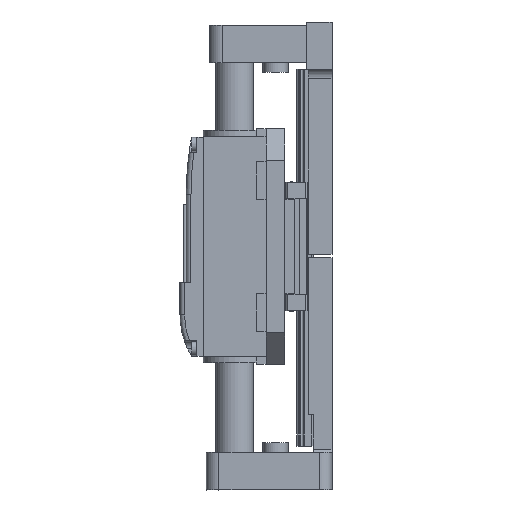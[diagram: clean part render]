
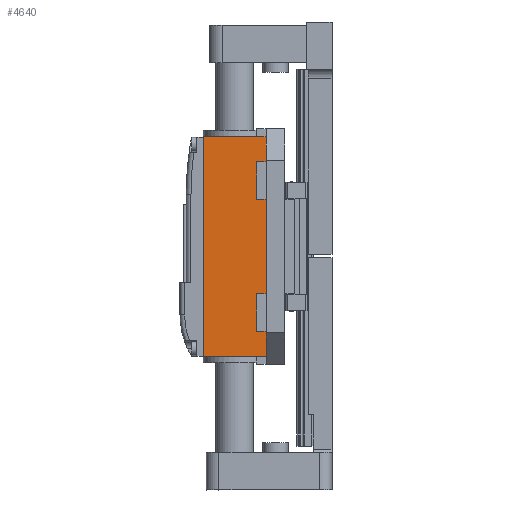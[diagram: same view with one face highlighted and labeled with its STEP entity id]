
A CAD part, left-side view. The second image highlights one B-rep face of the part: STEP entity #4640.
In plain terms, the highlighted planar face has unit normal (-1, 0, 0).
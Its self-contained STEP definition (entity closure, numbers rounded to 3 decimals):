
#3009 = PLANE('',#3010);
#3010 = AXIS2_PLACEMENT_3D('',#3011,#3012,#3013);
#3011 = CARTESIAN_POINT('',(10.,10.,-72.));
#3012 = DIRECTION('',(0.,1.,0.));
#3013 = DIRECTION('',(-1.,0.,0.));
#4536 = PLANE('',#4537);
#4537 = AXIS2_PLACEMENT_3D('',#4538,#4539,#4540);
#4538 = CARTESIAN_POINT('',(0.,0.,-2.));
#4539 = DIRECTION('',(0.,0.,1.));
#4540 = DIRECTION('',(1.,0.,-0.));
#4640 = ADVANCED_FACE('',(#4641),#4655,.T.);
#4641 = FACE_BOUND('',#4642,.T.);
#4642 = EDGE_LOOP('',(#4643,#4673,#4696,#4724));
#4643 = ORIENTED_EDGE('',*,*,#4644,.F.);
#4644 = EDGE_CURVE('',#4645,#4647,#4649,.T.);
#4645 = VERTEX_POINT('',#4646);
#4646 = CARTESIAN_POINT('',(-10.,10.,-2.));
#4647 = VERTEX_POINT('',#4648);
#4648 = CARTESIAN_POINT('',(-10.,-10.,-2.));
#4649 = SURFACE_CURVE('',#4650,(#4654,#4666),.PCURVE_S1.);
#4650 = LINE('',#4651,#4652);
#4651 = CARTESIAN_POINT('',(-10.,10.,-2.));
#4652 = VECTOR('',#4653,1.);
#4653 = DIRECTION('',(0.,-1.,0.));
#4654 = PCURVE('',#4655,#4660);
#4655 = PLANE('',#4656);
#4656 = AXIS2_PLACEMENT_3D('',#4657,#4658,#4659);
#4657 = CARTESIAN_POINT('',(-10.,10.,-72.));
#4658 = DIRECTION('',(-1.,0.,0.));
#4659 = DIRECTION('',(0.,0.,1.));
#4660 = DEFINITIONAL_REPRESENTATION('',(#4661),#4665);
#4661 = LINE('',#4662,#4663);
#4662 = CARTESIAN_POINT('',(70.,0.));
#4663 = VECTOR('',#4664,1.);
#4664 = DIRECTION('',(0.,-1.));
#4665 = ( GEOMETRIC_REPRESENTATION_CONTEXT(2) 
PARAMETRIC_REPRESENTATION_CONTEXT() REPRESENTATION_CONTEXT('2D SPACE',''
  ) );
#4666 = PCURVE('',#4536,#4667);
#4667 = DEFINITIONAL_REPRESENTATION('',(#4668),#4672);
#4668 = LINE('',#4669,#4670);
#4669 = CARTESIAN_POINT('',(-10.,10.));
#4670 = VECTOR('',#4671,1.);
#4671 = DIRECTION('',(0.,-1.));
#4672 = ( GEOMETRIC_REPRESENTATION_CONTEXT(2) 
PARAMETRIC_REPRESENTATION_CONTEXT() REPRESENTATION_CONTEXT('2D SPACE',''
  ) );
#4673 = ORIENTED_EDGE('',*,*,#4674,.F.);
#4674 = EDGE_CURVE('',#4675,#4645,#4677,.T.);
#4675 = VERTEX_POINT('',#4676);
#4676 = CARTESIAN_POINT('',(-10.,10.,-72.));
#4677 = SURFACE_CURVE('',#4678,(#4682,#4689),.PCURVE_S1.);
#4678 = LINE('',#4679,#4680);
#4679 = CARTESIAN_POINT('',(-10.,10.,-72.));
#4680 = VECTOR('',#4681,1.);
#4681 = DIRECTION('',(0.,0.,1.));
#4682 = PCURVE('',#4655,#4683);
#4683 = DEFINITIONAL_REPRESENTATION('',(#4684),#4688);
#4684 = LINE('',#4685,#4686);
#4685 = CARTESIAN_POINT('',(0.,0.));
#4686 = VECTOR('',#4687,1.);
#4687 = DIRECTION('',(1.,0.));
#4688 = ( GEOMETRIC_REPRESENTATION_CONTEXT(2) 
PARAMETRIC_REPRESENTATION_CONTEXT() REPRESENTATION_CONTEXT('2D SPACE',''
  ) );
#4689 = PCURVE('',#3009,#4690);
#4690 = DEFINITIONAL_REPRESENTATION('',(#4691),#4695);
#4691 = LINE('',#4692,#4693);
#4692 = CARTESIAN_POINT('',(20.,0.));
#4693 = VECTOR('',#4694,1.);
#4694 = DIRECTION('',(0.,1.));
#4695 = ( GEOMETRIC_REPRESENTATION_CONTEXT(2) 
PARAMETRIC_REPRESENTATION_CONTEXT() REPRESENTATION_CONTEXT('2D SPACE',''
  ) );
#4696 = ORIENTED_EDGE('',*,*,#4697,.T.);
#4697 = EDGE_CURVE('',#4675,#4698,#4700,.T.);
#4698 = VERTEX_POINT('',#4699);
#4699 = CARTESIAN_POINT('',(-10.,-10.,-72.));
#4700 = SURFACE_CURVE('',#4701,(#4705,#4712),.PCURVE_S1.);
#4701 = LINE('',#4702,#4703);
#4702 = CARTESIAN_POINT('',(-10.,10.,-72.));
#4703 = VECTOR('',#4704,1.);
#4704 = DIRECTION('',(0.,-1.,0.));
#4705 = PCURVE('',#4655,#4706);
#4706 = DEFINITIONAL_REPRESENTATION('',(#4707),#4711);
#4707 = LINE('',#4708,#4709);
#4708 = CARTESIAN_POINT('',(0.,0.));
#4709 = VECTOR('',#4710,1.);
#4710 = DIRECTION('',(0.,-1.));
#4711 = ( GEOMETRIC_REPRESENTATION_CONTEXT(2) 
PARAMETRIC_REPRESENTATION_CONTEXT() REPRESENTATION_CONTEXT('2D SPACE',''
  ) );
#4712 = PCURVE('',#4713,#4718);
#4713 = PLANE('',#4714);
#4714 = AXIS2_PLACEMENT_3D('',#4715,#4716,#4717);
#4715 = CARTESIAN_POINT('',(0.,0.,-72.));
#4716 = DIRECTION('',(0.,0.,1.));
#4717 = DIRECTION('',(1.,0.,-0.));
#4718 = DEFINITIONAL_REPRESENTATION('',(#4719),#4723);
#4719 = LINE('',#4720,#4721);
#4720 = CARTESIAN_POINT('',(-10.,10.));
#4721 = VECTOR('',#4722,1.);
#4722 = DIRECTION('',(0.,-1.));
#4723 = ( GEOMETRIC_REPRESENTATION_CONTEXT(2) 
PARAMETRIC_REPRESENTATION_CONTEXT() REPRESENTATION_CONTEXT('2D SPACE',''
  ) );
#4724 = ORIENTED_EDGE('',*,*,#4725,.T.);
#4725 = EDGE_CURVE('',#4698,#4647,#4726,.T.);
#4726 = SURFACE_CURVE('',#4727,(#4731,#4738),.PCURVE_S1.);
#4727 = LINE('',#4728,#4729);
#4728 = CARTESIAN_POINT('',(-10.,-10.,-72.));
#4729 = VECTOR('',#4730,1.);
#4730 = DIRECTION('',(0.,0.,1.));
#4731 = PCURVE('',#4655,#4732);
#4732 = DEFINITIONAL_REPRESENTATION('',(#4733),#4737);
#4733 = LINE('',#4734,#4735);
#4734 = CARTESIAN_POINT('',(0.,-20.));
#4735 = VECTOR('',#4736,1.);
#4736 = DIRECTION('',(1.,0.));
#4737 = ( GEOMETRIC_REPRESENTATION_CONTEXT(2) 
PARAMETRIC_REPRESENTATION_CONTEXT() REPRESENTATION_CONTEXT('2D SPACE',''
  ) );
#4738 = PCURVE('',#4739,#4744);
#4739 = PLANE('',#4740);
#4740 = AXIS2_PLACEMENT_3D('',#4741,#4742,#4743);
#4741 = CARTESIAN_POINT('',(-10.,-10.,-72.));
#4742 = DIRECTION('',(0.,-1.,0.));
#4743 = DIRECTION('',(0.,0.,-1.));
#4744 = DEFINITIONAL_REPRESENTATION('',(#4745),#4749);
#4745 = LINE('',#4746,#4747);
#4746 = CARTESIAN_POINT('',(0.,0.));
#4747 = VECTOR('',#4748,1.);
#4748 = DIRECTION('',(-1.,0.));
#4749 = ( GEOMETRIC_REPRESENTATION_CONTEXT(2) 
PARAMETRIC_REPRESENTATION_CONTEXT() REPRESENTATION_CONTEXT('2D SPACE',''
  ) );
